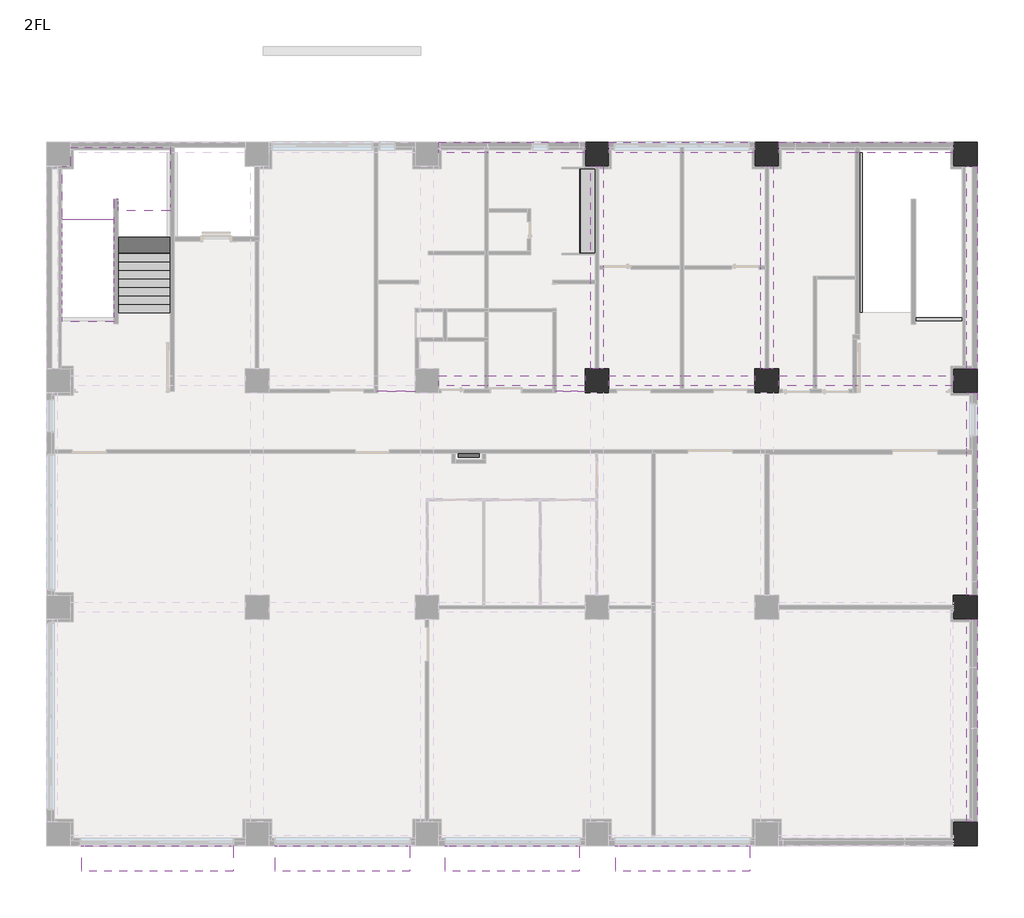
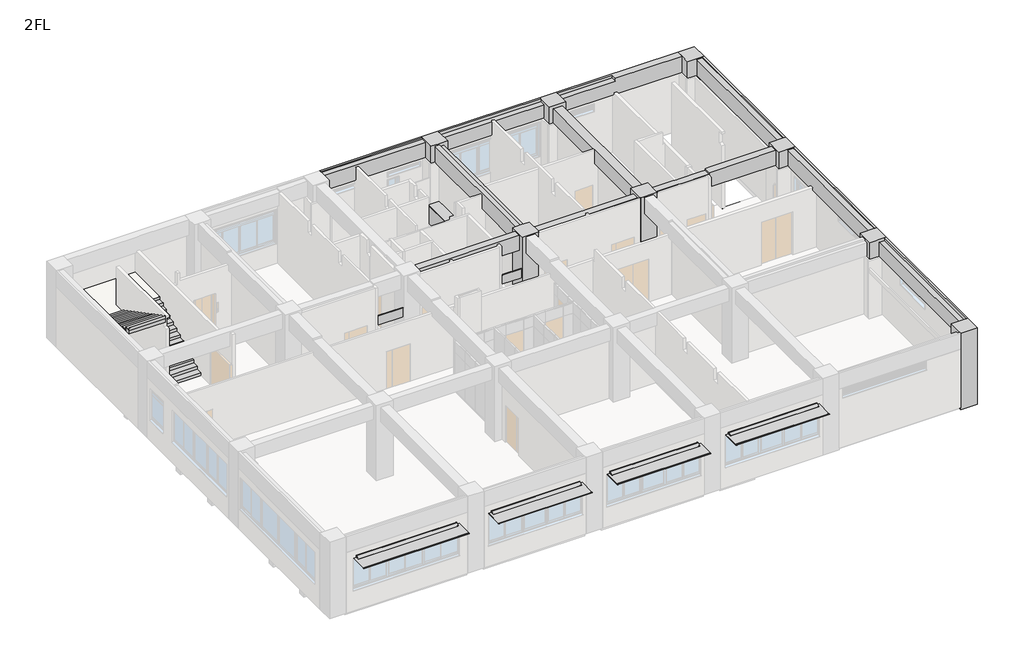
# One storey, part 7 of 7: 17 beams, 8 columns, 7 proxies, 2 stair flights, 1 flow terminal, 1 slab.
"""IFC4 building model written with IfcOpenShell, lengths in millimetres."""

from ifc_helpers import new_model, si_unit, frame, origin, place, context, project, spatial, polyline, outline, extrude, faceted_brep, transform, mapped, element, save
from components import generic_models_889831fe, generic_models_706210b3, specialty_equipment_ac76b24c, generic_models_8fc78ecc, generic_models_3a1368d3, flow_terminal_46fab2b1

model = new_model("IFC4")

# Units and contexts
model_context = context("Model", 3, world=origin())
ifc_project = project(units=[si_unit("LENGTHUNIT", "METRE", prefix="MILLI")], contexts=[model_context])

# Site, building, storey
site = spatial("IfcSite", under=ifc_project)
building = spatial("IfcBuilding", under=site)
storey = spatial("IfcBuildingStorey", under=building, Name="2FL", Elevation=4100.0)

# Beams
placement = place(None, origin())
element("IfcBeam", 1, ObjectType="営_RC梁 : 2-RG2 350*850", at=placement, inside=storey, context=model_context, shape_type="Brep", body=[
    faceted_brep([(13420.0, 15825.0, 7250.0), (15040.0, 15825.0, 7250.0), (15160.0, 15825.0, 7250.0), (17440.0, 15825.0, 7250.0), (17560.0, 15825.0, 7250.0), (18580.0, 15825.0, 7250.0), (18580.0, 15825.0, 8040.0), (13420.0, 15825.0, 8040.0), (13420.0, 16175.0, 7250.0), (15040.0, 16175.0, 7250.0), (15160.0, 16175.0, 7250.0), (17440.0, 16175.0, 7250.0), (17560.0, 16175.0, 7250.0), (18580.0, 16175.0, 7250.0), (13420.0, 16175.0, 8040.0), (18580.0, 16175.0, 8040.0)], [[[0, 1, 2, 3, 4, 5, 6, 7]], [[0, 8, 9, 10, 11, 12, 13, 5, 4, 3, 2, 1]], [[13, 12, 11, 10, 9, 8, 14, 15]], [[8, 0, 7, 14]], [[5, 13, 15, 6]], [[7, 6, 15, 14]]]),
])
element("IfcBeam", 2, ObjectType="営_RC梁 : 2-RG2 350*850", at=placement, inside=storey, context=model_context, shape_type="Brep", body=[
    faceted_brep([(19420.0, 15825.0, 7250.0), (21940.0, 15825.0, 7250.0), (22060.0, 15825.0, 7250.0), (24580.0, 15825.0, 7250.0), (24580.0, 15825.0, 7950.0), (19420.0, 15825.0, 7950.0), (19420.0, 16175.0, 7250.0), (21940.0, 16175.0, 7250.0), (22060.0, 16175.0, 7250.0), (24580.0, 16175.0, 7250.0), (19420.0, 16175.0, 7950.0), (24580.0, 16175.0, 7950.0)], [[[0, 1, 2, 3, 4, 5]], [[0, 6, 7, 8, 9, 3, 2, 1]], [[9, 8, 7, 6, 10, 11]], [[6, 0, 5, 10]], [[3, 9, 11, 4]], [[5, 4, 11, 10]]]),
])
element("IfcBeam", 3, ObjectType="営_RC梁 : 2-RG2 350*850", at=placement, inside=storey, context=model_context, shape_type="Brep", body=[
    faceted_brep([(25420.0, 15825.0, 7250.0), (26640.0, 15825.0, 7250.0), (26760.0, 15825.0, 7250.0), (28025.0, 15825.0, 7250.0), (28175.0, 15825.0, 7250.0), (31580.0, 15825.0, 7250.0), (31580.0, 15825.0, 8040.0), (28200.0, 15825.0, 8040.0), (28200.0, 15825.0, 7950.0), (28175.0, 15825.0, 7950.0), (28025.0, 15825.0, 7950.0), (26760.0, 15825.0, 7950.0), (26640.0, 15825.0, 7950.0), (25420.0, 15825.0, 7950.0), (25420.0, 16175.0, 7250.0), (26640.0, 16175.0, 7250.0), (26760.0, 16175.0, 7250.0), (28025.0, 16175.0, 7250.0), (28175.0, 16175.0, 7250.0), (31580.0, 16175.0, 7250.0), (25420.0, 16175.0, 7950.0), (26640.0, 16175.0, 7950.0), (26760.0, 16175.0, 7950.0), (28024.0, 16175.0, 7950.0), (28200.0, 16175.0, 7950.0), (28200.0, 16175.0, 8040.0), (28374.0, 16175.0, 8040.0), (31580.0, 16175.0, 8040.0)], [[[0, 1, 2, 3, 4, 5, 6, 7, 8, 9, 10, 11, 12, 13]], [[0, 14, 15, 16, 17, 18, 19, 5, 4, 3, 2, 1]], [[19, 18, 17, 16, 15, 14, 20, 21, 22, 23, 24, 25, 26, 27]], [[14, 0, 13, 20]], [[5, 19, 27, 6]], [[7, 6, 27, 26, 25]], [[8, 24, 23, 22, 21, 20, 13, 12, 11, 10, 9]], [[24, 8, 7, 25]]]),
])
element("IfcBeam", 4, ObjectType="営_RC梁 : 2-RG1 350*850", at=placement, inside=storey, context=model_context, shape_type="Brep", body=[
    faceted_brep([(18580.0, 24050.0, 7250.0), (18580.0, 24250.0, 7250.0), (18580.0, 24420.0, 7250.0), (18580.0, 24420.0, 8100.0), (18580.0, 24335.0, 8100.0), (18580.0, 24335.0, 8040.0), (18580.0, 24050.0, 8040.0), (13420.0, 24420.0, 8100.0), (13420.0, 24420.0, 7250.0), (13420.0, 24250.0, 7250.0), (13420.0, 24050.0, 7250.0), (13420.0, 24050.0, 8040.0), (13420.0, 24335.0, 8040.0), (13420.0, 24335.0, 8100.0), (15040.0, 24050.0, 7250.0), (15160.0, 24050.0, 7250.0)], [[[0, 1, 2, 3, 4, 5, 6]], [[7, 8, 9, 10, 11, 12, 13]], [[10, 14, 15, 0, 6, 11]], [[2, 1, 0, 15, 14, 10, 9, 8]], [[3, 2, 8, 7]], [[3, 7, 13, 4]], [[5, 12, 11, 6]], [[12, 5, 4, 13]]]),
])
element("IfcBeam", 5, ObjectType="営_RC梁 : 2-RG1 350*850", at=placement, inside=storey, context=model_context, shape_type="Brep", body=[
    faceted_brep([(24580.0, 24050.0, 7250.0), (24580.0, 24250.0, 7250.0), (24580.0, 24420.0, 7250.0), (24580.0, 24420.0, 8100.0), (24580.0, 24335.0, 8100.0), (24580.0, 24335.0, 7950.0), (24580.0, 24050.0, 7950.0), (19420.0, 24420.0, 8100.0), (19420.0, 24420.0, 7250.0), (19420.0, 24250.0, 7250.0), (19420.0, 24050.0, 7250.0), (19420.0, 24050.0, 7950.0), (19420.0, 24335.0, 7950.0), (19420.0, 24335.0, 8100.0), (21940.0, 24050.0, 7250.0), (22060.0, 24050.0, 7250.0)], [[[0, 1, 2, 3, 4, 5, 6]], [[7, 8, 9, 10, 11, 12, 13]], [[10, 14, 15, 0, 6, 11]], [[2, 1, 0, 15, 14, 10, 9, 8]], [[3, 2, 8, 7]], [[3, 7, 13, 4]], [[5, 12, 11, 6]], [[12, 5, 4, 13]]]),
])
element("IfcBeam", 6, ObjectType="営_RC梁 : 2-RG1 350*850", at=placement, inside=storey, context=model_context, shape_type="Brep", body=[
    faceted_brep([(31580.0, 24050.0, 8100.0), (31580.0, 24050.0, 7250.0), (31580.0, 24250.0, 7250.0), (31580.0, 24420.0, 7250.0), (31580.0, 24420.0, 8100.0), (25420.0, 24420.0, 8100.0), (25420.0, 24420.0, 7250.0), (25420.0, 24250.0, 7250.0), (25420.0, 24050.0, 7250.0), (25420.0, 24050.0, 7950.0), (25420.0, 24335.0, 7950.0), (25420.0, 24335.0, 8100.0), (28200.0, 24050.0, 8100.0), (28200.0, 24050.0, 7950.0), (28125.0, 24050.0, 7250.0), (28275.0, 24050.0, 7250.0), (28200.0, 24335.0, 8100.0), (28200.0, 24335.0, 7950.0)], [[[0, 1, 2, 3, 4]], [[5, 6, 7, 8, 9, 10, 11]], [[1, 0, 12, 13, 9, 8, 14, 15]], [[3, 2, 1, 15, 14, 8, 7, 6]], [[4, 3, 6, 5]], [[0, 4, 5, 11, 16, 12]], [[13, 17, 10, 9]], [[17, 16, 11, 10]], [[16, 17, 13, 12]]]),
])
element("IfcBeam", 7, ObjectType="営_RC梁 : 2-4G12 450*900", at=placement, inside=storey, context=model_context, shape_type="Brep", body=[
    faceted_brep([(19225.0, 16420.0, 7200.0), (19225.0, 19940.0, 7200.0), (19225.0, 20060.0, 7200.0), (19225.0, 23580.0, 7200.0), (19225.0, 23580.0, 7950.0), (19225.0, 21515.0, 7950.0), (19225.0, 21165.0, 7950.0), (19225.0, 20060.0, 7950.0), (19225.0, 19940.0, 7950.0), (19225.0, 18845.0, 7950.0), (19225.0, 18495.0, 7950.0), (19225.0, 16420.0, 7950.0), (19060.0, 16420.0, 7200.0), (18940.0, 16420.0, 7200.0), (18775.0, 16420.0, 7200.0), (18775.0, 19430.0, 7200.0), (18775.0, 19550.0, 7200.0), (18775.0, 23580.0, 7200.0), (18940.0, 23580.0, 7200.0), (19060.0, 23580.0, 7200.0), (18775.0, 16420.0, 8040.0), (18775.0, 18495.0, 8040.0), (18775.0, 18845.0, 8040.0), (18775.0, 21165.0, 8040.0), (18775.0, 21515.0, 8040.0), (18775.0, 23580.0, 8040.0), (19000.0, 16420.0, 7950.0), (19000.0, 16420.0, 8040.0), (19000.0, 23580.0, 8040.0), (19000.0, 23580.0, 7950.0)], [[[0, 1, 2, 3, 4, 5, 6, 7, 8, 9, 10, 11]], [[0, 12, 13, 14, 15, 16, 17, 18, 19, 3, 2, 1]], [[17, 16, 15, 14, 20, 21, 22, 23, 24, 25]], [[14, 13, 12, 0, 11, 26, 27, 20]], [[3, 19, 18, 17, 25, 28, 29, 4]], [[25, 24, 23, 22, 21, 20, 27, 28]], [[29, 26, 11, 10, 9, 8, 7, 6, 5, 4]], [[26, 29, 28, 27]]]),
])
element("IfcBeam", 8, ObjectType="営_RC梁 : 2-4G12 450*900", at=placement, inside=storey, context=model_context, shape_type="Brep", body=[
    faceted_brep([(25225.0, 16420.0, 7200.0), (25225.0, 23580.0, 7200.0), (25225.0, 23580.0, 7950.0), (25225.0, 16420.0, 7950.0), (25060.0, 16420.0, 7200.0), (24940.0, 16420.0, 7200.0), (24775.0, 16420.0, 7200.0), (24775.0, 19940.0, 7200.0), (24775.0, 20060.0, 7200.0), (24775.0, 23580.0, 7200.0), (24940.0, 23580.0, 7200.0), (25060.0, 23580.0, 7200.0), (24775.0, 16420.0, 7950.0), (24775.0, 18495.0, 7950.0), (24775.0, 18845.0, 7950.0), (24775.0, 19940.0, 7950.0), (24775.0, 20060.0, 7950.0), (24775.0, 21165.0, 7950.0), (24775.0, 21515.0, 7950.0), (24775.0, 23580.0, 7950.0)], [[[0, 1, 2, 3]], [[0, 4, 5, 6, 7, 8, 9, 10, 11, 1]], [[9, 8, 7, 6, 12, 13, 14, 15, 16, 17, 18, 19]], [[6, 5, 4, 0, 3, 12]], [[1, 11, 10, 9, 19, 2]], [[3, 2, 19, 18, 17, 16, 15, 14, 13, 12]]]),
])
element("IfcBeam", 9, ObjectType="営_RC梁 : 2-RG11 350*900", at=placement, inside=storey, context=model_context, shape_type="Brep", body=[
    faceted_brep([(32420.0, 7580.0, 8100.0), (32420.0, 7580.0, 7200.0), (32250.0, 7580.0, 7200.0), (32050.0, 7580.0, 7200.0), (32050.0, 7580.0, 7950.0), (32325.0, 7580.0, 7950.0), (32325.0, 7580.0, 8100.0), (32050.0, 420.0, 7200.0), (32250.0, 420.0, 7200.0), (32420.0, 420.0, 7200.0), (32420.0, 420.0, 8100.0), (32325.0, 420.0, 8100.0), (32325.0, 420.0, 7950.0), (32050.0, 420.0, 7950.0), (32050.0, 2485.0, 7950.0), (32050.0, 2835.0, 7950.0), (32050.0, 5155.0, 7950.0), (32050.0, 5505.0, 7950.0)], [[[0, 1, 2, 3, 4, 5, 6]], [[7, 8, 9, 10, 11, 12, 13]], [[1, 0, 10, 9]], [[3, 2, 1, 9, 8, 7]], [[3, 7, 13, 14, 15, 16, 17, 4]], [[10, 0, 6, 11]], [[12, 5, 4, 17, 16, 15, 14, 13]], [[5, 12, 11, 6]]]),
])
element("IfcBeam", 10, ObjectType="営_RC梁 : 2-RG11 350*900", at=placement, inside=storey, context=model_context, shape_type="Brep", body=[
    faceted_brep([(32420.0, 15580.0, 8100.0), (32420.0, 15580.0, 7200.0), (32250.0, 15580.0, 7200.0), (32050.0, 15580.0, 7200.0), (32050.0, 15580.0, 8040.0), (32250.0, 15580.0, 8040.0), (32325.0, 15580.0, 8040.0), (32325.0, 15580.0, 8100.0), (32050.0, 8420.0, 7200.0), (32250.0, 8420.0, 7200.0), (32420.0, 8420.0, 7200.0), (32420.0, 8420.0, 8100.0), (32325.0, 8420.0, 8100.0), (32325.0, 8420.0, 8040.0), (32250.0, 8420.0, 8040.0), (32050.0, 8420.0, 8040.0), (32050.0, 13410.0, 7200.0), (32050.0, 13560.0, 7200.0), (32050.0, 10575.0, 8040.0), (32050.0, 10925.0, 8040.0), (32050.0, 13325.0, 8040.0), (32050.0, 13675.0, 8040.0)], [[[0, 1, 2, 3, 4, 5, 6, 7]], [[8, 9, 10, 11, 12, 13, 14, 15]], [[1, 0, 11, 10]], [[3, 2, 1, 10, 9, 8, 16, 17]], [[3, 17, 16, 8, 15, 18, 19, 20, 21, 4]], [[11, 0, 7, 12]], [[13, 6, 5, 4, 21, 20, 19, 18, 15, 14]], [[6, 13, 12, 7]]]),
])
element("IfcBeam", 11, ObjectType="営_RC梁 : 2-RG11 350*900", at=placement, inside=storey, context=model_context, shape_type="Brep", body=[
    faceted_brep([(32420.0, 23580.0, 8100.0), (32420.0, 23580.0, 7200.0), (32250.0, 23580.0, 7200.0), (32050.0, 23580.0, 7200.0), (32050.0, 23580.0, 8040.0), (32250.0, 23580.0, 8040.0), (32325.0, 23580.0, 8040.0), (32325.0, 23580.0, 8100.0), (32050.0, 16420.0, 7200.0), (32250.0, 16420.0, 7200.0), (32420.0, 16420.0, 7200.0), (32420.0, 16420.0, 8100.0), (32325.0, 16420.0, 8100.0), (32325.0, 16420.0, 8040.0), (32250.0, 16420.0, 8040.0), (32050.0, 16420.0, 8040.0), (32050.0, 17975.0, 8040.0), (32050.0, 18225.0, 8040.0), (32325.0, 16669.8819845, 8100.0), (32325.0, 16669.8819845, 8040.0)], [[[0, 1, 2, 3, 4, 5, 6, 7]], [[8, 9, 10, 11, 12, 13, 14, 15]], [[1, 0, 11, 10]], [[3, 2, 1, 10, 9, 8]], [[3, 8, 15, 16, 17, 4]], [[11, 0, 7, 18, 12]], [[19, 6, 5, 4, 17, 16, 15, 14, 13]], [[19, 13, 12, 18]], [[6, 19, 18, 7]]]),
])
element("IfcBeam", 12, ObjectType="営_RC梁 : B4 350*750", at=placement, inside=storey, context=model_context, shape_type="Brep", body=[
    faceted_brep([(28374.0, 16175.0, 4000.0), (28374.0, 16175.0, 3250.0), (28374.0, 24050.0, 3250.0), (28374.0, 24050.0, 4000.0), (28374.0, 18225.0, 4000.0), (28374.0, 17975.0, 4000.0), (28024.0, 16175.0, 3250.0), (28024.0, 24050.0, 3250.0), (28024.0, 16175.0, 4000.0), (28024.0, 24050.0, 4000.0)], [[[0, 1, 2, 3, 4, 5]], [[1, 6, 7, 2]], [[6, 8, 9, 7]], [[8, 0, 5, 4, 3, 9]], [[1, 0, 8, 6]], [[3, 2, 7, 9]]]),
])
element("IfcBeam", 13, ObjectType="営_RC梁 : B3 250*600", at=placement, inside=storey, context=model_context, shape_type="SweptSolid", body=[
    extrude(outline(polyline([(28374.0, 17975.0), (28374.0, 18225.0), (32050.0, 18225.0), (32050.0, 17975.0), (28374.0, 17975.0)])), frame((0.0, 0.0, 3400.0), z_axis=(0.0, 0.0, 1.0), x_axis=(1.0, 0.0, 0.0)), (0.0, 0.0, 1.0), 600.0),
])
element("IfcBeam", 14, ObjectType="営_RC梁 : B1 350*750", at=placement, inside=storey, context=model_context, shape_type="SweptSolid", body=[
    extrude(outline(polyline([(19225.0, 18495.0), (19225.0, 18845.0), (24775.0, 18845.0), (24775.0, 18495.0), (19225.0, 18495.0)])), frame((0.0, 0.0, 3250.0), z_axis=(0.0, 0.0, 1.0), x_axis=(1.0, 0.0, 0.0)), (0.0, 0.0, 1.0), 690.0),
])
element("IfcBeam", 15, ObjectType="営_RC梁 : B1 350*750", at=placement, inside=storey, context=model_context, shape_type="SweptSolid", body=[
    extrude(outline(polyline([(19225.0, 21165.0), (19225.0, 21515.0), (24775.0, 21515.0), (24775.0, 21165.0), (19225.0, 21165.0)])), frame((0.0, 0.0, 3250.0), z_axis=(0.0, 0.0, 1.0), x_axis=(1.0, 0.0, 0.0)), (0.0, 0.0, 1.0), 690.0),
])
element("IfcBeam", 16, ObjectType="営_RC梁 : B1 350*750", at=placement, inside=storey, context=model_context, shape_type="Brep", body=[
    faceted_brep([(13225.0, 18495.0, 3250.0), (13570.0, 18495.0, 3250.0), (13690.0, 18495.0, 3250.0), (15160.0, 18495.0, 3250.0), (17560.0, 18495.0, 3250.0), (18775.0, 18495.0, 3250.0), (18775.0, 18495.0, 3940.0), (13225.0, 18495.0, 3940.0), (13225.0, 18495.0, 3850.0), (13225.0, 18550.0, 3250.0), (13225.0, 18845.0, 3250.0), (15040.0, 18845.0, 3250.0), (15160.0, 18845.0, 3250.0), (17440.0, 18845.0, 3250.0), (17560.0, 18845.0, 3250.0), (18775.0, 18845.0, 3250.0), (13225.0, 18845.0, 3940.0), (18775.0, 18845.0, 3940.0)], [[[0, 1, 2, 3, 4, 5, 6, 7, 8]], [[0, 9, 10, 11, 12, 13, 14, 15, 5, 4, 3, 2, 1]], [[15, 14, 13, 12, 11, 10, 16, 17]], [[10, 9, 0, 8, 7, 16]], [[5, 15, 17, 6]], [[7, 6, 17, 16]]]),
])
element("IfcBeam", 17, ObjectType="営_RC梁 : B1 350*750", at=placement, inside=storey, context=model_context, shape_type="Brep", body=[
    faceted_brep([(13225.0, 21165.0, 3250.0), (15040.0, 21165.0, 3250.0), (15160.0, 21165.0, 3250.0), (16540.0, 21165.0, 3250.0), (16660.0, 21165.0, 3250.0), (18775.0, 21165.0, 3250.0), (18775.0, 21165.0, 3940.0), (13225.0, 21165.0, 3940.0), (13225.0, 21515.0, 3250.0), (15040.0, 21515.0, 3250.0), (15160.0, 21515.0, 3250.0), (16540.0, 21515.0, 3250.0), (16660.0, 21515.0, 3250.0), (18775.0, 21515.0, 3250.0), (13225.0, 21515.0, 3940.0), (18775.0, 21515.0, 3940.0)], [[[0, 1, 2, 3, 4, 5, 6, 7]], [[0, 8, 9, 10, 11, 12, 13, 5, 4, 3, 2, 1]], [[13, 12, 11, 10, 9, 8, 14, 15]], [[8, 0, 7, 14]], [[5, 13, 15, 6]], [[7, 6, 15, 14]]]),
])

# Proxies
generic_models_shape = generic_models_889831fe(model_context)
element("IfcBuildingElementProxy", 18, Name="営_付庇_窓 : 付庇", ObjectType="営_付庇_窓 : 付庇", at=placement, inside=storey, context=model_context, shape_type="MappedRepresentation", body=[
    mapped(generic_models_shape, transform((3476.2951348, -420.0, 4100.0), x_axis=(1.0, 0.0, 0.0), y_axis=(0.0, 1.0, 0.0), z_axis=(0.0, 0.0, 1.0))),
])
generic_models_2_shape = generic_models_706210b3(model_context)
element("IfcBuildingElementProxy", 19, Name="営_付庇_窓 : 付庇", ObjectType="営_付庇_窓 : 付庇", at=placement, inside=storey, context=model_context, shape_type="MappedRepresentation", body=[
    mapped(generic_models_2_shape, transform((10011.2951348, -420.0, 4100.0), x_axis=(1.0, 0.0, 0.0), y_axis=(0.0, 1.0, 0.0), z_axis=(0.0, 0.0, 1.0))),
])
element("IfcBuildingElementProxy", 20, Name="営_付庇_窓 : 付庇", ObjectType="営_付庇_窓 : 付庇", at=placement, inside=storey, context=model_context, shape_type="MappedRepresentation", body=[
    mapped(generic_models_2_shape, transform((16011.2951348, -420.0, 4100.0), x_axis=(1.0, 0.0, 0.0), y_axis=(0.0, 1.0, 0.0), z_axis=(0.0, 0.0, 1.0))),
])
element("IfcBuildingElementProxy", 21, Name="営_付庇_窓 : 付庇", ObjectType="営_付庇_窓 : 付庇", at=placement, inside=storey, context=model_context, shape_type="MappedRepresentation", body=[
    mapped(generic_models_2_shape, transform((22031.2951348, -420.0, 4100.0), x_axis=(1.0, 0.0, 0.0), y_axis=(0.0, 1.0, 0.0), z_axis=(0.0, 0.0, 1.0))),
])
specialty_equipment_shape = specialty_equipment_ac76b24c(model_context)
element("IfcBuildingElementProxy", 22, Name="営_屋内消火栓 : 屋内消火栓", ObjectType="営_屋内消火栓 : 屋内消火栓", at=placement, inside=storey, context=model_context, shape_type="MappedRepresentation", body=[
    mapped(specialty_equipment_shape, transform((14470.0, 13550.0, 4100.0), x_axis=(1.0, 0.0, 0.0), y_axis=(0.0, 1.0, 0.0), z_axis=(0.0, 0.0, 1.0))),
])
generic_models_3_shape = generic_models_8fc78ecc(model_context)
element("IfcBuildingElementProxy", 23, Name="防煙垂壁 : 可動防煙垂壁", ObjectType="防煙垂壁 : 可動防煙垂壁", at=placement, inside=storey, context=model_context, shape_type="MappedRepresentation", body=[
    mapped(generic_models_3_shape, transform((12580.0, 15630.0, 4100.0), x_axis=(-1.0, 0.0, 0.0), y_axis=(0.0, -1.0, 0.0), z_axis=(0.0, 0.0, 1.0))),
])
generic_models_4_shape = generic_models_3a1368d3(model_context)
element("IfcBuildingElementProxy", 24, Name="防煙垂壁 : 可動防煙垂壁", ObjectType="防煙垂壁 : 可動防煙垂壁", at=placement, inside=storey, context=model_context, shape_type="MappedRepresentation", body=[
    mapped(generic_models_4_shape, transform((18580.0, 15630.0, 4100.0), x_axis=(-1.0, 0.0, 0.0), y_axis=(0.0, -1.0, 0.0), z_axis=(0.0, 0.0, 1.0))),
])

# Columns
element("IfcColumn", 25, ObjectType="営_RC柱_角 : 800*800", at=placement, inside=storey, context=model_context, shape_type="Brep", body=[
    faceted_brep([(32420.0, 420.0, 4000.0), (32420.0, -420.0, 4000.0), (31580.0, -420.0, 4000.0), (31580.0, 420.0, 4000.0), (32250.0, 420.0, 4000.0), (32325.0, 420.0, 4000.0), (32420.0, 420.0, 8100.0), (32420.0, -420.0, 8100.0), (32420.0, 420.0, 7200.0), (31580.0, -420.0, 8100.0), (31580.0, -420.0, 7250.0), (31580.0, -420.0, 4090.0), (31580.0, -325.0, 8100.0), (31580.0, 420.0, 8100.0), (31580.0, 420.0, 7950.0), (31580.0, 420.0, 4090.0), (32325.0, 420.0, 8100.0)], [[[0, 1, 2, 3, 4, 5]], [[6, 7, 1, 0, 8]], [[7, 9, 10, 11, 2, 1]], [[9, 12, 13, 14, 15, 3, 2, 11, 10]], [[13, 16, 6, 8, 0, 5, 4, 3, 15, 14]], [[6, 16, 13, 12, 9, 7]]]),
])
element("IfcColumn", 26, ObjectType="営_RC柱_角 : 800*800", at=placement, inside=storey, context=model_context, shape_type="Brep", body=[
    faceted_brep([(32420.0, 8420.0, 4000.0), (32420.0, 7580.0, 4000.0), (32325.0, 7580.0, 4000.0), (32250.0, 7580.0, 4000.0), (31580.0, 7580.0, 4000.0), (31580.0, 8420.0, 4000.0), (32250.0, 8420.0, 4000.0), (32325.0, 8420.0, 4000.0), (32420.0, 8420.0, 8100.0), (32420.0, 7580.0, 8100.0), (32420.0, 7580.0, 7200.0), (32420.0, 8420.0, 7200.0), (32325.0, 7580.0, 8100.0), (31580.0, 7580.0, 8100.0), (31580.0, 7580.0, 7950.0), (31580.0, 7580.0, 4090.0), (31580.0, 8000.0, 8100.0), (31580.0, 8420.0, 8100.0), (31580.0, 8420.0, 8040.0), (31580.0, 8420.0, 4090.0), (32325.0, 8420.0, 8100.0)], [[[0, 1, 2, 3, 4, 5, 6, 7]], [[8, 9, 10, 1, 0, 11]], [[9, 12, 13, 14, 15, 4, 3, 2, 1, 10]], [[13, 16, 17, 18, 19, 5, 4, 15, 14]], [[17, 20, 8, 11, 0, 7, 6, 5, 19, 18]], [[8, 20, 17, 16, 13, 12, 9]]]),
])
element("IfcColumn", 27, ObjectType="営_RC柱_角 : 800*800", at=placement, inside=storey, context=model_context, shape_type="Brep", body=[
    faceted_brep([(19420.0, 16420.0, 4000.0), (19420.0, 15580.0, 4000.0), (18580.0, 15580.0, 4000.0), (18580.0, 16420.0, 4000.0), (19420.0, 16420.0, 8100.0), (19420.0, 15640.0, 8100.0), (19420.0, 15580.0, 8100.0), (19420.0, 15580.0, 8040.0), (19420.0, 15580.0, 4100.0), (19420.0, 15580.0, 4090.0), (19420.0, 16420.0, 4090.0), (19420.0, 16420.0, 7950.0), (18580.0, 15580.0, 8100.0), (18580.0, 15580.0, 8040.0), (18580.0, 15580.0, 4090.0), (18580.0, 16420.0, 8100.0), (18580.0, 16420.0, 8040.0), (18580.0, 16420.0, 4090.0), (19000.0, 16420.0, 8100.0)], [[[0, 1, 2, 3]], [[4, 5, 6, 7, 8, 9, 1, 0, 10, 11]], [[6, 12, 13, 14, 2, 1, 9, 8, 7]], [[12, 15, 16, 17, 3, 2, 14, 13]], [[15, 18, 4, 11, 10, 0, 3, 17, 16]], [[4, 18, 15, 12, 6, 5]]]),
])
element("IfcColumn", 28, ObjectType="営_RC柱_角 : 800*800", at=placement, inside=storey, context=model_context, shape_type="Brep", body=[
    faceted_brep([(25420.0, 16420.0, 4000.0), (25420.0, 15580.0, 4000.0), (24580.0, 15580.0, 4000.0), (24580.0, 16420.0, 4000.0), (25420.0, 16420.0, 8100.0), (25420.0, 15640.0, 8100.0), (25420.0, 15580.0, 8100.0), (25420.0, 15580.0, 8040.0), (25420.0, 15580.0, 4100.0), (25420.0, 15580.0, 4090.0), (25420.0, 16420.0, 4090.0), (25420.0, 16420.0, 7950.0), (24580.0, 15580.0, 8100.0), (24580.0, 15580.0, 8040.0), (24580.0, 15580.0, 4100.0), (24580.0, 15580.0, 4090.0), (24580.0, 15640.0, 8100.0), (24580.0, 16420.0, 8100.0), (24580.0, 16420.0, 7950.0), (24580.0, 16420.0, 4090.0)], [[[0, 1, 2, 3]], [[4, 5, 6, 7, 8, 9, 1, 0, 10, 11]], [[6, 12, 13, 14, 15, 2, 1, 9, 8, 7]], [[12, 16, 17, 18, 19, 3, 2, 15, 14, 13]], [[17, 4, 11, 10, 0, 3, 19, 18]], [[4, 17, 16, 12, 6, 5]]]),
])
element("IfcColumn", 29, ObjectType="営_RC柱_角 : 800*800", at=placement, inside=storey, context=model_context, shape_type="Brep", body=[
    faceted_brep([(32420.0, 16420.0, 4000.0), (32420.0, 15580.0, 4000.0), (32325.0, 15580.0, 4000.0), (32250.0, 15580.0, 4000.0), (31580.0, 15580.0, 4000.0), (31580.0, 16420.0, 4000.0), (32250.0, 16420.0, 4000.0), (32325.0, 16420.0, 4000.0), (32420.0, 16420.0, 8100.0), (32420.0, 15580.0, 8100.0), (32420.0, 15580.0, 7200.0), (32420.0, 16420.0, 7200.0), (32325.0, 15580.0, 8100.0), (31580.0, 15580.0, 8100.0), (31580.0, 15580.0, 8040.0), (31580.0, 15580.0, 4090.0), (31580.0, 16420.0, 8100.0), (31580.0, 16420.0, 8040.0), (31580.0, 16420.0, 4090.0), (32325.0, 16420.0, 8100.0)], [[[0, 1, 2, 3, 4, 5, 6, 7]], [[8, 9, 10, 1, 0, 11]], [[9, 12, 13, 14, 15, 4, 3, 2, 1, 10]], [[13, 16, 17, 18, 5, 4, 15, 14]], [[16, 19, 8, 11, 0, 7, 6, 5, 18, 17]], [[8, 19, 16, 13, 12, 9]]]),
])
element("IfcColumn", 30, ObjectType="営_RC柱_角 : 800*800", at=placement, inside=storey, context=model_context, shape_type="Brep", body=[
    faceted_brep([(19420.0, 24420.0, 4000.0), (19420.0, 24335.0, 4000.0), (19420.0, 24250.0, 4000.0), (19420.0, 23580.0, 4000.0), (18580.0, 23580.0, 4000.0), (18580.0, 24250.0, 4000.0), (18580.0, 24335.0, 4000.0), (18580.0, 24420.0, 4000.0), (19420.0, 24420.0, 8100.0), (19420.0, 24335.0, 8100.0), (19420.0, 23580.0, 8100.0), (19420.0, 23580.0, 7950.0), (19420.0, 23580.0, 4090.0), (19420.0, 24420.0, 7250.0), (19000.0, 23580.0, 8100.0), (18580.0, 23580.0, 8100.0), (18580.0, 23580.0, 8040.0), (18580.0, 23580.0, 4090.0), (18580.0, 24335.0, 8100.0), (18580.0, 24420.0, 8100.0), (18580.0, 24420.0, 7250.0)], [[[0, 1, 2, 3, 4, 5, 6, 7]], [[8, 9, 10, 11, 12, 3, 2, 1, 0, 13]], [[10, 14, 15, 16, 17, 4, 3, 12, 11]], [[15, 18, 19, 20, 7, 6, 5, 4, 17, 16]], [[19, 8, 13, 0, 7, 20]], [[8, 19, 18, 15, 14, 10, 9]]]),
])
element("IfcColumn", 31, ObjectType="営_RC柱_角 : 800*800", at=placement, inside=storey, context=model_context, shape_type="Brep", body=[
    faceted_brep([(25420.0, 24420.0, 4000.0), (25420.0, 24335.0, 4000.0), (25420.0, 24250.0, 4000.0), (25420.0, 23580.0, 4000.0), (24580.0, 23580.0, 4000.0), (24580.0, 24250.0, 4000.0), (24580.0, 24335.0, 4000.0), (24580.0, 24420.0, 4000.0), (25420.0, 24420.0, 8100.0), (25420.0, 24335.0, 8100.0), (25420.0, 23580.0, 8100.0), (25420.0, 23580.0, 7950.0), (25420.0, 23580.0, 4090.0), (25420.0, 24420.0, 7250.0), (24580.0, 23580.0, 8100.0), (24580.0, 23580.0, 7950.0), (24580.0, 23580.0, 4090.0), (24580.0, 24335.0, 8100.0), (24580.0, 24420.0, 8100.0), (24580.0, 24420.0, 7250.0)], [[[0, 1, 2, 3, 4, 5, 6, 7]], [[8, 9, 10, 11, 12, 3, 2, 1, 0, 13]], [[10, 14, 15, 16, 4, 3, 12, 11]], [[14, 17, 18, 19, 7, 6, 5, 4, 16, 15]], [[18, 8, 13, 0, 7, 19]], [[8, 18, 17, 14, 10, 9]]]),
])
element("IfcColumn", 32, ObjectType="営_RC柱_角 : 800*800", at=placement, inside=storey, context=model_context, shape_type="Brep", body=[
    faceted_brep([(32420.0, 24420.0, 4000.0), (32420.0, 23580.0, 4000.0), (32325.0, 23580.0, 4000.0), (31580.0, 23580.0, 4000.0), (31580.0, 24250.0, 4000.0), (31580.0, 24420.0, 4000.0), (32420.0, 24420.0, 8100.0), (32420.0, 23580.0, 8100.0), (32420.0, 23580.0, 7200.0), (32325.0, 23580.0, 8100.0), (31580.0, 23580.0, 8100.0), (31580.0, 24050.0, 8100.0), (31580.0, 24420.0, 8100.0), (31580.0, 24420.0, 7250.0)], [[[0, 1, 2, 3, 4, 5]], [[6, 7, 8, 1, 0]], [[7, 9, 10, 3, 2, 1, 8]], [[10, 11, 12, 13, 5, 4, 3]], [[12, 6, 0, 5, 13]], [[6, 12, 11, 10, 9, 7]]]),
])

# Flow terminal
flow_terminal_shape = flow_terminal_46fab2b1(model_context)
element("IfcFlowTerminal", 33, ObjectType="ライニング : ライニング", at=placement, inside=storey, context=model_context, shape_type="MappedRepresentation", body=[
    mapped(flow_terminal_shape, transform((19000.0, 21870.0, 4100.0), x_axis=(0.0, 1.0, 0.0), y_axis=(-1.0, 0.0, 0.0), z_axis=(0.0, 0.0, 1.0))),
])

# Slab
element("IfcSlab", 34, ObjectType="200+20", at=placement, inside=storey, context=model_context, shape_type="Brep", body=[
    faceted_brep([(115.0, 21700.0, 6130.0), (115.0, 21680.0, 6130.0), (1945.0, 21680.0, 6130.0), (1945.0, 21700.0, 6130.0), (1945.0, 21776.1491315, 6130.0), (1945.0, 22410.0, 6130.0), (2095.0, 22410.0, 6130.0), (2095.0, 22223.8508685, 6130.0), (2095.0, 22020.0, 6130.0), (3925.0, 22020.0, 6130.0), (3925.0, 22223.8508685, 6130.0), (3925.0, 24250.0, 6130.0), (420.0, 24250.0, 6130.0), (420.0, 23580.0, 6130.0), (115.0, 23580.0, 6130.0), (115.0, 21776.1491315, 6130.0), (2095.0, 22020.0, 5972.3076923), (2095.0, 22020.0, 5802.8476204), (3925.0, 22020.0, 5802.8476204), (3925.0, 22020.0, 5972.3076923), (3925.0, 22223.8508685, 5910.0), (3925.0, 24250.0, 5910.0), (420.0, 24250.0, 5910.0), (115.0, 21700.0, 5950.0271076), (115.0, 23580.0, 5910.0), (115.0, 21776.1491315, 5910.0), (115.0, 21680.0, 5960.5399281), (1945.0, 21680.0, 5960.5399281), (1945.0, 21700.0, 5950.0271076), (1945.0, 21776.1491315, 5910.0), (1945.0, 22410.0, 5910.0), (2095.0, 22223.8508685, 5910.0), (2095.0, 22410.0, 5910.0), (420.0, 23580.0, 5910.0)], [[[0, 1, 2, 3, 4, 5, 6, 7, 8, 9, 10, 11, 12, 13, 14, 15]], [[9, 8, 16, 17, 18, 19]], [[9, 19, 18, 20, 21, 11, 10]], [[12, 11, 21, 22]], [[23, 0, 15, 14, 24, 25]], [[2, 1, 26, 27]], [[3, 28, 29, 30, 5, 4]], [[20, 31, 32, 30, 29, 25, 24, 33, 22, 21]], [[31, 20, 18, 17]], [[25, 29, 28, 27, 26, 23]], [[6, 5, 30, 32]], [[6, 32, 31, 17, 16, 8, 7]], [[13, 12, 22, 33]], [[14, 13, 33, 24]], [[1, 0, 23, 26]], [[3, 2, 27, 28]]]),
    faceted_brep([(115.0, 21700.0, 6150.0), (1945.0, 21700.0, 6150.0), (1945.0, 22410.0, 6150.0), (2095.0, 22410.0, 6150.0), (2095.0, 22000.0, 6150.0), (3925.0, 22000.0, 6150.0), (3925.0, 24250.0, 6150.0), (420.0, 24250.0, 6150.0), (420.0, 23580.0, 6150.0), (115.0, 23580.0, 6150.0), (115.0, 21700.0, 6130.0), (115.0, 23580.0, 6130.0), (420.0, 23580.0, 6130.0), (420.0, 24250.0, 6130.0), (3925.0, 24250.0, 6130.0), (3925.0, 22020.0, 6130.0), (3925.0, 22000.0, 6130.0), (2095.0, 22000.0, 6130.0), (2095.0, 22020.0, 6130.0), (2095.0, 22410.0, 6130.0), (1945.0, 22410.0, 6130.0), (1945.0, 21700.0, 6130.0)], [[[0, 1, 2, 3, 4, 5, 6, 7, 8, 9]], [[10, 11, 12, 13, 14, 15, 16, 17, 18, 19, 20, 21]], [[1, 0, 10, 21]], [[2, 1, 21, 20]], [[3, 2, 20, 19]], [[4, 3, 19, 18, 17]], [[5, 4, 17, 16]], [[6, 5, 16, 15, 14]], [[7, 6, 14, 13]], [[8, 7, 13, 12]], [[9, 8, 12, 11]], [[0, 9, 11, 10]]]),
])

# Stair flights
element("IfcStairFlight", 35, ObjectType="150+20", at=placement, inside=storey, context=model_context, shape_type="SolidModel", body=[
    faceted_brep([(2095.0, 18720.0, 4237.6923077), (2095.0, 18420.0, 4237.6923077), (3925.0, 18420.0, 4237.6923077), (3925.0, 18720.0, 4237.6923077), (2095.0, 18720.0, 4100.0), (2095.0, 18420.0, 4100.0), (3925.0, 18420.0, 4100.0), (3925.0, 18720.0, 4100.0), (2095.0, 19020.0, 4395.3846154), (2095.0, 18720.0, 4395.3846154), (3925.0, 18720.0, 4395.3846154), (3925.0, 19020.0, 4395.3846154), (2095.0, 19020.0, 4225.9245435), (2095.0, 18780.4362344, 4100.0), (3925.0, 18780.4362344, 4100.0), (3925.0, 19020.0, 4225.9245435), (2095.0, 19320.0, 4553.0769231), (2095.0, 19020.0, 4553.0769231), (3925.0, 19020.0, 4553.0769231), (3925.0, 19320.0, 4553.0769231), (2095.0, 19320.0, 4383.6168512), (3925.0, 19320.0, 4383.6168512), (2095.0, 19620.0, 4710.7692308), (2095.0, 19320.0, 4710.7692308), (3925.0, 19320.0, 4710.7692308), (3925.0, 19620.0, 4710.7692308), (2095.0, 19620.0, 4541.3091588), (3925.0, 19620.0, 4541.3091588), (2095.0, 19920.0, 4868.4615385), (2095.0, 19620.0, 4868.4615385), (3925.0, 19620.0, 4868.4615385), (3925.0, 19920.0, 4868.4615385), (2095.0, 19920.0, 4699.0014665), (3925.0, 19920.0, 4699.0014665), (2095.0, 20220.0, 5026.1538462), (2095.0, 19920.0, 5026.1538462), (3925.0, 19920.0, 5026.1538462), (3925.0, 20220.0, 5026.1538462), (2095.0, 20220.0, 4856.6937742), (3925.0, 20220.0, 4856.6937742), (2095.0, 20520.0, 5183.8461538), (2095.0, 20220.0, 5183.8461538), (3925.0, 20220.0, 5183.8461538), (3925.0, 20520.0, 5183.8461538), (2095.0, 20520.0, 5014.3860819), (3925.0, 20520.0, 5014.3860819), (2095.0, 20820.0, 5341.5384615), (2095.0, 20520.0, 5341.5384615), (3925.0, 20520.0, 5341.5384615), (3925.0, 20820.0, 5341.5384615), (2095.0, 20820.0, 5172.0783896), (3925.0, 20820.0, 5172.0783896), (2095.0, 21120.0, 5499.2307692), (2095.0, 20820.0, 5499.2307692), (3925.0, 20820.0, 5499.2307692), (3925.0, 21120.0, 5499.2307692), (2095.0, 21120.0, 5329.7706973), (3925.0, 21120.0, 5329.7706973), (2095.0, 21420.0, 5656.9230769), (2095.0, 21120.0, 5656.9230769), (3925.0, 21120.0, 5656.9230769), (3925.0, 21420.0, 5656.9230769), (2095.0, 21420.0, 5487.463005), (3925.0, 21420.0, 5487.463005), (2095.0, 21720.0, 5814.6153846), (2095.0, 21420.0, 5814.6153846), (3925.0, 21420.0, 5814.6153846), (3925.0, 21720.0, 5814.6153846), (2095.0, 21720.0, 5645.1553127), (3925.0, 21720.0, 5645.1553127), (2095.0, 21720.0, 5972.3076923), (3925.0, 21720.0, 5972.3076923), (3925.0, 22000.0, 5972.3076923), (3925.0, 22020.0, 5972.3076923), (2095.0, 22020.0, 5972.3076923), (2095.0, 22000.0, 5972.3076923), (2095.0, 22020.0, 5802.8476204), (2095.0, 22000.0, 5792.3347999), (3925.0, 22000.0, 5792.3347999), (3925.0, 22020.0, 5802.8476204)], [[[0, 1, 2, 3]], [[1, 0, 4, 5]], [[2, 1, 5, 6]], [[3, 2, 6, 7]], [[8, 9, 10, 11]], [[4, 0, 9, 8, 12, 13]], [[0, 3, 10, 9]], [[3, 7, 14, 15, 11, 10]], [[16, 17, 18, 19]], [[17, 16, 20, 12, 8]], [[8, 11, 18, 17]], [[19, 18, 11, 15, 21]], [[22, 23, 24, 25]], [[23, 22, 26, 20, 16]], [[16, 19, 24, 23]], [[25, 24, 19, 21, 27]], [[28, 29, 30, 31]], [[29, 28, 32, 26, 22]], [[22, 25, 30, 29]], [[31, 30, 25, 27, 33]], [[34, 35, 36, 37]], [[35, 34, 38, 32, 28]], [[28, 31, 36, 35]], [[37, 36, 31, 33, 39]], [[40, 41, 42, 43]], [[41, 40, 44, 38, 34]], [[34, 37, 42, 41]], [[43, 42, 37, 39, 45]], [[46, 47, 48, 49]], [[47, 46, 50, 44, 40]], [[40, 43, 48, 47]], [[49, 48, 43, 45, 51]], [[52, 53, 54, 55]], [[53, 52, 56, 50, 46]], [[46, 49, 54, 53]], [[55, 54, 49, 51, 57]], [[58, 59, 60, 61]], [[59, 58, 62, 56, 52]], [[52, 55, 60, 59]], [[61, 60, 55, 57, 63]], [[64, 65, 66, 67]], [[65, 64, 68, 62, 58]], [[58, 61, 66, 65]], [[67, 66, 61, 63, 69]], [[70, 71, 72, 73, 74, 75]], [[64, 70, 75, 74, 76, 77, 68]], [[64, 67, 71, 70]], [[71, 67, 69, 78, 79, 73, 72]], [[74, 73, 79, 76]], [[5, 4, 13, 14, 7, 6]], [[14, 13, 12, 20, 26, 32, 38, 44, 50, 56, 62, 68, 77, 76, 79, 78, 69, 63, 57, 51, 45, 39, 33, 27, 21, 15]]]),
    extrude(outline(polyline([(18420.0, 4237.6923077), (18420.0, 4100.0), (18400.0, 4100.0), (18400.0, 4257.6923077), (18700.0, 4257.6923077), (18700.0, 4415.3846154), (19000.0, 4415.3846154), (19000.0, 4573.0769231), (19300.0, 4573.0769231), (19300.0, 4730.7692308), (19600.0, 4730.7692308), (19600.0, 4888.4615385), (19900.0, 4888.4615385), (19900.0, 5046.1538462), (20200.0, 5046.1538462), (20200.0, 5203.8461538), (20500.0, 5203.8461538), (20500.0, 5361.5384615), (20800.0, 5361.5384615), (20800.0, 5519.2307692), (21100.0, 5519.2307692), (21100.0, 5676.9230769), (21400.0, 5676.9230769), (21400.0, 5834.6153846), (21700.0, 5834.6153846), (21700.0, 5992.3076923), (22000.0, 5992.3076923), (22000.0, 6130.0), (22020.0, 6130.0), (22020.0, 5972.3076923), (21720.0, 5972.3076923), (21720.0, 5814.6153846), (21420.0, 5814.6153846), (21420.0, 5656.9230769), (21120.0, 5656.9230769), (21120.0, 5499.2307692), (20820.0, 5499.2307692), (20820.0, 5341.5384615), (20520.0, 5341.5384615), (20520.0, 5183.8461538), (20220.0, 5183.8461538), (20220.0, 5026.1538462), (19920.0, 5026.1538462), (19920.0, 4868.4615385), (19620.0, 4868.4615385), (19620.0, 4710.7692308), (19320.0, 4710.7692308), (19320.0, 4553.0769231), (19020.0, 4553.0769231), (19020.0, 4395.3846154), (18720.0, 4395.3846154), (18720.0, 4237.6923077), (18420.0, 4237.6923077)])), frame((2095.0, 0.0, 0.0), z_axis=(1.0, 0.0, 0.0), x_axis=(0.0, 1.0, 0.0)), (0.0, 0.0, 1.0), 1830.0),
])
element("IfcStairFlight", 36, ObjectType="150+20", at=placement, inside=storey, context=model_context, shape_type="Brep", body=[
    faceted_brep([(1945.0, 21380.0, 6287.6923077), (1945.0, 21680.0, 6287.6923077), (115.0, 21680.0, 6287.6923077), (115.0, 21380.0, 6287.6923077), (1945.0, 21380.0, 6118.2322358), (1945.0, 21680.0, 5960.5399281), (1945.0, 21680.0, 6130.0), (115.0, 21680.0, 5960.5399281), (115.0, 21680.0, 6130.0), (115.0, 21380.0, 6118.2322358), (1945.0, 21080.0, 6445.3846154), (1945.0, 21380.0, 6445.3846154), (115.0, 21380.0, 6445.3846154), (115.0, 21080.0, 6445.3846154), (1945.0, 21080.0, 6275.9245435), (115.0, 21080.0, 6275.9245435), (1945.0, 20780.0, 6603.0769231), (1945.0, 21080.0, 6603.0769231), (115.0, 21080.0, 6603.0769231), (115.0, 20780.0, 6603.0769231), (1945.0, 20780.0, 6433.6168512), (115.0, 20780.0, 6433.6168512), (1945.0, 20480.0, 6760.7692308), (1945.0, 20780.0, 6760.7692308), (115.0, 20780.0, 6760.7692308), (115.0, 20480.0, 6760.7692308), (1945.0, 20480.0, 6591.3091588), (115.0, 20480.0, 6591.3091588), (1945.0, 20180.0, 6918.4615385), (1945.0, 20480.0, 6918.4615385), (115.0, 20480.0, 6918.4615385), (115.0, 20180.0, 6918.4615385), (1945.0, 20180.0, 6749.0014665), (115.0, 20180.0, 6749.0014665), (1945.0, 19880.0, 7076.1538462), (1945.0, 20180.0, 7076.1538462), (115.0, 20180.0, 7076.1538462), (115.0, 19880.0, 7076.1538462), (1945.0, 19880.0, 6906.6937742), (115.0, 19880.0, 6906.6937742), (1945.0, 19580.0, 7233.8461538), (1945.0, 19880.0, 7233.8461538), (115.0, 19880.0, 7233.8461538), (115.0, 19580.0, 7233.8461538), (1945.0, 19580.0, 7064.3860819), (115.0, 19580.0, 7064.3860819), (1945.0, 19280.0, 7391.5384615), (1945.0, 19580.0, 7391.5384615), (115.0, 19580.0, 7391.5384615), (115.0, 19280.0, 7391.5384615), (1945.0, 19280.0, 7222.0783896), (115.0, 19280.0, 7222.0783896), (1945.0, 18980.0, 7549.2307692), (1945.0, 19280.0, 7549.2307692), (115.0, 19280.0, 7549.2307692), (115.0, 18980.0, 7549.2307692), (1945.0, 18980.0, 7379.7706973), (115.0, 18980.0, 7379.7706973), (1945.0, 18680.0, 7706.9230769), (1945.0, 18980.0, 7706.9230769), (115.0, 18980.0, 7706.9230769), (115.0, 18680.0, 7706.9230769), (1945.0, 18680.0, 7537.463005), (115.0, 18680.0, 7537.463005), (1945.0, 18380.0, 7864.6153846), (1945.0, 18680.0, 7864.6153846), (115.0, 18680.0, 7864.6153846), (115.0, 18380.0, 7864.6153846), (1945.0, 18380.0, 7695.1553127), (115.0, 18380.0, 7695.1553127), (1945.0, 18080.0, 7852.8476204), (115.0, 18080.0, 7852.8476204), (1945.0, 18080.0, 8022.3076923), (1945.0, 18380.0, 8022.3076923), (115.0, 18380.0, 8022.3076923), (115.0, 18080.0, 8022.3076923)], [[[0, 1, 2, 3]], [[1, 0, 4, 5, 6]], [[2, 1, 6, 5, 7, 8]], [[3, 2, 8, 7, 9]], [[10, 11, 12, 13]], [[11, 10, 14, 4, 0]], [[12, 11, 0, 3]], [[13, 12, 3, 9, 15]], [[16, 17, 18, 19]], [[17, 16, 20, 14, 10]], [[18, 17, 10, 13]], [[19, 18, 13, 15, 21]], [[22, 23, 24, 25]], [[23, 22, 26, 20, 16]], [[24, 23, 16, 19]], [[25, 24, 19, 21, 27]], [[28, 29, 30, 31]], [[29, 28, 32, 26, 22]], [[30, 29, 22, 25]], [[31, 30, 25, 27, 33]], [[34, 35, 36, 37]], [[35, 34, 38, 32, 28]], [[36, 35, 28, 31]], [[37, 36, 31, 33, 39]], [[40, 41, 42, 43]], [[41, 40, 44, 38, 34]], [[42, 41, 34, 37]], [[43, 42, 37, 39, 45]], [[46, 47, 48, 49]], [[47, 46, 50, 44, 40]], [[48, 47, 40, 43]], [[49, 48, 43, 45, 51]], [[52, 53, 54, 55]], [[53, 52, 56, 50, 46]], [[54, 53, 46, 49]], [[55, 54, 49, 51, 57]], [[58, 59, 60, 61]], [[59, 58, 62, 56, 52]], [[60, 59, 52, 55]], [[61, 60, 55, 57, 63]], [[64, 65, 66, 67]], [[65, 64, 68, 62, 58]], [[66, 65, 58, 61]], [[67, 66, 61, 63, 69]], [[5, 4, 14, 20, 26, 32, 38, 44, 50, 56, 62, 68, 70, 71, 69, 63, 57, 51, 45, 39, 33, 27, 21, 15, 9, 7]], [[72, 73, 74, 75]], [[73, 72, 70, 68, 64]], [[74, 73, 64, 67]], [[75, 74, 67, 69, 71]], [[72, 75, 71, 70]]]),
    faceted_brep([(115.0, 21700.0, 6130.0), (115.0, 21680.0, 6130.0), (115.0, 21680.0, 6287.6923077), (115.0, 21380.0, 6287.6923077), (115.0, 21380.0, 6445.3846154), (115.0, 21080.0, 6445.3846154), (115.0, 21080.0, 6603.0769231), (115.0, 20780.0, 6603.0769231), (115.0, 20780.0, 6760.7692308), (115.0, 20480.0, 6760.7692308), (115.0, 20480.0, 6918.4615385), (115.0, 20180.0, 6918.4615385), (115.0, 20180.0, 7076.1538462), (115.0, 19880.0, 7076.1538462), (115.0, 19880.0, 7233.8461538), (115.0, 19580.0, 7233.8461538), (115.0, 19580.0, 7391.5384615), (115.0, 19280.0, 7391.5384615), (115.0, 19280.0, 7549.2307692), (115.0, 18980.0, 7549.2307692), (115.0, 18980.0, 7706.9230769), (115.0, 18680.0, 7706.9230769), (115.0, 18680.0, 7864.6153846), (115.0, 18380.0, 7864.6153846), (115.0, 18380.0, 8022.3076923), (115.0, 18080.0, 8022.3076923), (115.0, 18080.0, 8180.0), (115.0, 18100.0, 8180.0), (115.0, 18100.0, 8042.3076923), (115.0, 18400.0, 8042.3076923), (115.0, 18400.0, 7884.6153846), (115.0, 18700.0, 7884.6153846), (115.0, 18700.0, 7726.9230769), (115.0, 19000.0, 7726.9230769), (115.0, 19000.0, 7569.2307692), (115.0, 19300.0, 7569.2307692), (115.0, 19300.0, 7411.5384615), (115.0, 19600.0, 7411.5384615), (115.0, 19600.0, 7253.8461538), (115.0, 19900.0, 7253.8461538), (115.0, 19900.0, 7096.1538462), (115.0, 20200.0, 7096.1538462), (115.0, 20200.0, 6938.4615385), (115.0, 20500.0, 6938.4615385), (115.0, 20500.0, 6780.7692308), (115.0, 20800.0, 6780.7692308), (115.0, 20800.0, 6623.0769231), (115.0, 21100.0, 6623.0769231), (115.0, 21100.0, 6465.3846154), (115.0, 21400.0, 6465.3846154), (115.0, 21400.0, 6307.6923077), (115.0, 21700.0, 6307.6923077), (115.0, 21700.0, 6150.0), (1945.0, 21680.0, 6287.6923077), (1945.0, 21680.0, 6130.0), (1945.0, 21700.0, 6130.0), (1945.0, 21700.0, 6150.0), (1945.0, 21700.0, 6307.6923077), (1945.0, 21400.0, 6307.6923077), (1945.0, 21400.0, 6465.3846154), (1945.0, 21100.0, 6465.3846154), (1945.0, 21100.0, 6623.0769231), (1945.0, 20800.0, 6623.0769231), (1945.0, 20800.0, 6780.7692308), (1945.0, 20500.0, 6780.7692308), (1945.0, 20500.0, 6938.4615385), (1945.0, 20200.0, 6938.4615385), (1945.0, 20200.0, 7096.1538462), (1945.0, 19900.0, 7096.1538462), (1945.0, 19900.0, 7253.8461538), (1945.0, 19600.0, 7253.8461538), (1945.0, 19600.0, 7411.5384615), (1945.0, 19300.0, 7411.5384615), (1945.0, 19300.0, 7569.2307692), (1945.0, 19000.0, 7569.2307692), (1945.0, 19000.0, 7726.9230769), (1945.0, 18700.0, 7726.9230769), (1945.0, 18700.0, 7884.6153846), (1945.0, 18400.0, 7884.6153846), (1945.0, 18400.0, 8042.3076923), (1945.0, 18100.0, 8042.3076923), (1945.0, 18100.0, 8180.0), (1945.0, 18080.0, 8180.0), (1945.0, 18080.0, 8022.3076923), (1945.0, 18380.0, 8022.3076923), (1945.0, 18380.0, 7864.6153846), (1945.0, 18680.0, 7864.6153846), (1945.0, 18680.0, 7706.9230769), (1945.0, 18980.0, 7706.9230769), (1945.0, 18980.0, 7549.2307692), (1945.0, 19280.0, 7549.2307692), (1945.0, 19280.0, 7391.5384615), (1945.0, 19580.0, 7391.5384615), (1945.0, 19580.0, 7233.8461538), (1945.0, 19880.0, 7233.8461538), (1945.0, 19880.0, 7076.1538462), (1945.0, 20180.0, 7076.1538462), (1945.0, 20180.0, 6918.4615385), (1945.0, 20480.0, 6918.4615385), (1945.0, 20480.0, 6760.7692308), (1945.0, 20780.0, 6760.7692308), (1945.0, 20780.0, 6603.0769231), (1945.0, 21080.0, 6603.0769231), (1945.0, 21080.0, 6445.3846154), (1945.0, 21380.0, 6445.3846154), (1945.0, 21380.0, 6287.6923077)], [[[0, 1, 2, 3, 4, 5, 6, 7, 8, 9, 10, 11, 12, 13, 14, 15, 16, 17, 18, 19, 20, 21, 22, 23, 24, 25, 26, 27, 28, 29, 30, 31, 32, 33, 34, 35, 36, 37, 38, 39, 40, 41, 42, 43, 44, 45, 46, 47, 48, 49, 50, 51, 52]], [[53, 54, 55, 56, 57, 58, 59, 60, 61, 62, 63, 64, 65, 66, 67, 68, 69, 70, 71, 72, 73, 74, 75, 76, 77, 78, 79, 80, 81, 82, 83, 84, 85, 86, 87, 88, 89, 90, 91, 92, 93, 94, 95, 96, 97, 98, 99, 100, 101, 102, 103, 104, 105]], [[55, 0, 52, 51, 57, 56]], [[1, 0, 55, 54]], [[2, 1, 54, 53]], [[58, 57, 51, 50]], [[2, 53, 105, 3]], [[58, 50, 49, 59]], [[4, 3, 105, 104]], [[60, 59, 49, 48]], [[4, 104, 103, 5]], [[60, 48, 47, 61]], [[6, 5, 103, 102]], [[62, 61, 47, 46]], [[6, 102, 101, 7]], [[62, 46, 45, 63]], [[8, 7, 101, 100]], [[64, 63, 45, 44]], [[8, 100, 99, 9]], [[64, 44, 43, 65]], [[10, 9, 99, 98]], [[66, 65, 43, 42]], [[10, 98, 97, 11]], [[66, 42, 41, 67]], [[12, 11, 97, 96]], [[68, 67, 41, 40]], [[12, 96, 95, 13]], [[68, 40, 39, 69]], [[14, 13, 95, 94]], [[70, 69, 39, 38]], [[14, 94, 93, 15]], [[70, 38, 37, 71]], [[16, 15, 93, 92]], [[72, 71, 37, 36]], [[16, 92, 91, 17]], [[72, 36, 35, 73]], [[18, 17, 91, 90]], [[74, 73, 35, 34]], [[18, 90, 89, 19]], [[74, 34, 33, 75]], [[20, 19, 89, 88]], [[76, 75, 33, 32]], [[20, 88, 87, 21]], [[76, 32, 31, 77]], [[22, 21, 87, 86]], [[78, 77, 31, 30]], [[22, 86, 85, 23]], [[79, 78, 30, 29]], [[24, 23, 85, 84]], [[80, 79, 29, 28]], [[27, 81, 80, 28]], [[25, 24, 84, 83]], [[26, 25, 83, 82]], [[27, 26, 82, 81]]]),
])

save(model, "model.ifc")
